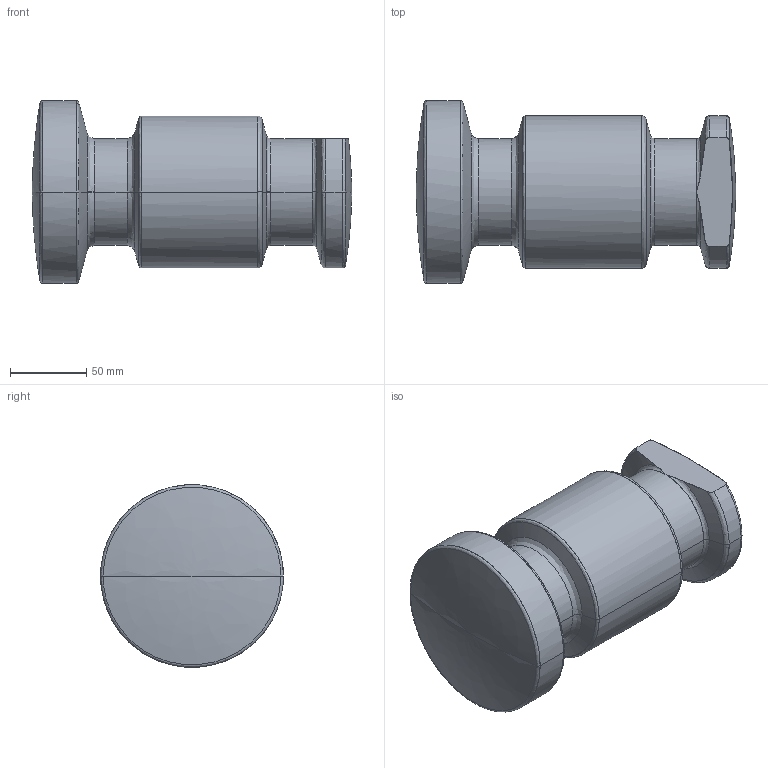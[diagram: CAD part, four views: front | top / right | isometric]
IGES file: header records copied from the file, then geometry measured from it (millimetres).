
Global section: file name: E:\UnigraphicsGraphicData\MISUMI_PRESS-PARTS\IGES\3d_chf70_03518_r00.igs; native system: NX V5.0; preprocessor: UGS NX IGES V5.0; author: MISUMI; date: 20110105.160216; units: millimetre
Bounding box: 209.6 x 120 x 119.8 mm (x, y, z)
Surface area: 89057 mm2 (no closed solid volume)
Topology: 0 solids, 0 shells, 48 faces, 216 edges, 212 vertices
Faces by surface type: bspline 48
